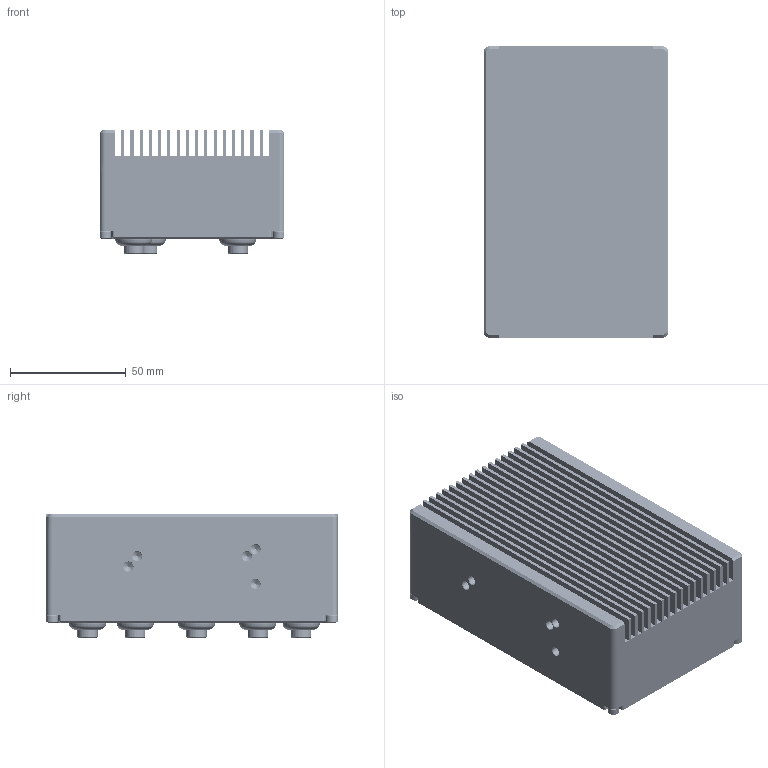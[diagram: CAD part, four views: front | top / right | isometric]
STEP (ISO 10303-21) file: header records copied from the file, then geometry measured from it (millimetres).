
FILE_DESCRIPTION(/* description */ (''),/* implementation_level */ '2;1');
FILE_NAME(/* name */ '装配-2026.5.6.stp',/* time_stamp */ '2026-05-06T15:16:30+08:00',/* author */ (''),/* organization */ (''),/* preprocessor_version */ 'ST-DEVELOPER v16.7',/* originating_system */ 'SIEMENS PLM Software NX 12.0',/* authorisation */ '');
FILE_SCHEMA (('AUTOMOTIVE_DESIGN { 1 0 10303 214 3 1 1 1 }'));
Products named in the file (1): Li Y6DC00F18ljja
Bounding box: 80 x 126 x 53.2 mm (x, y, z)
Volume: 158345.4 mm3; surface area: 135528.6 mm2
Topology: 21 solids, 21 shells, 3221 faces, 8522 edges, 5597 vertices
Faces by surface type: plane 2443, extrusion 332, cylinder 303, cone 72, bspline 61, torus 10
Full cylindrical faces by diameter (mm): 2.5 x8, 3 x6, 3.2 x4, 5 x9, 6.27 x5, 8.74 x5, 9 x5, 12 x5, 12.5 x5
Entity records: 157426 total; most frequent: CARTESIAN_POINT 72726, ORIENTED_EDGE 16866, DIRECTION 14281, EDGE_CURVE 8433, VECTOR 7203, LINE 6871, VERTEX_POINT 5581, EDGE_LOOP 3604
